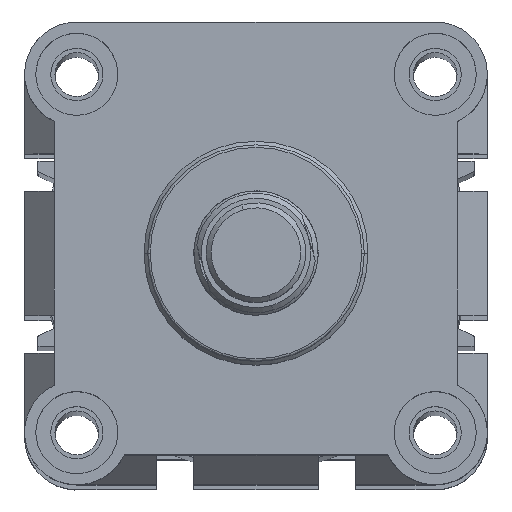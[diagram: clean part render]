
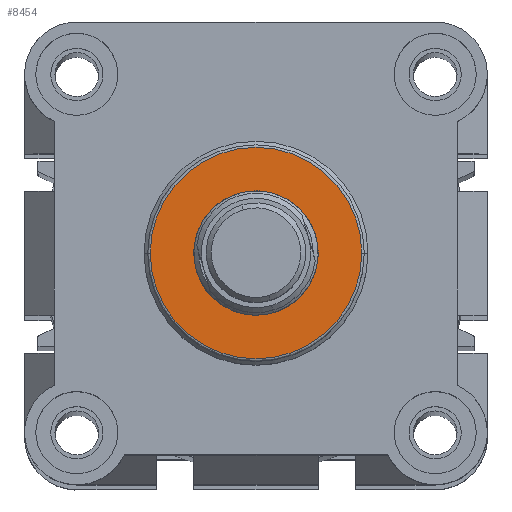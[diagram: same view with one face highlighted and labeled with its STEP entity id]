
A CAD part, top view. The second image highlights one B-rep face of the part: STEP entity #8454.
In plain terms, the highlighted planar face has unit normal (0, 0, 1) as drawn and (0, 0, -1) by its records, which use the part's own axes.
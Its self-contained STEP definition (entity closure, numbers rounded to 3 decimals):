
#20 = AXIS2_PLACEMENT_3D ( 'NONE', #18312, #12225, #15329 ) ;
#990 = CIRCLE ( 'NONE', #3863, 21.25 ) ;
#1325 = EDGE_CURVE ( 'NONE', #17641, #11056, #11751, .T. ) ;
#1332 = AXIS2_PLACEMENT_3D ( 'NONE', #19041, #8256, #14283 ) ;
#2462 = CARTESIAN_POINT ( 'NONE',  ( 34., 46.5, -34.7 ) ) ;
#3083 = EDGE_CURVE ( 'NONE', #11056, #17641, #990, .T. ) ;
#3336 = CARTESIAN_POINT ( 'NONE',  ( 59., 46.5, -34.7 ) ) ;
#3519 = CARTESIAN_POINT ( 'NONE',  ( 46.5, 46.5, -34.7 ) ) ;
#3863 = AXIS2_PLACEMENT_3D ( 'NONE', #5913, #18043, #19561 ) ;
#4160 = CARTESIAN_POINT ( 'NONE',  ( 46.5, 46.5, -34.7 ) ) ;
#4254 = ORIENTED_EDGE ( 'NONE', *, *, #3083, .T. ) ;
#4284 = EDGE_CURVE ( 'NONE', #9177, #5867, #7107, .T. ) ;
#5170 = EDGE_LOOP ( 'NONE', ( #13027, #4254 ) ) ;
#5727 = CARTESIAN_POINT ( 'NONE',  ( 67.75, 46.5, -34.7 ) ) ;
#5867 = VERTEX_POINT ( 'NONE', #3336 ) ;
#5913 = CARTESIAN_POINT ( 'NONE',  ( 46.5, 46.5, -34.7 ) ) ;
#7107 = CIRCLE ( 'NONE', #1332, 12.5 ) ;
#8256 = DIRECTION ( 'NONE',  ( 0., 0., -1. ) ) ;
#8454 = ADVANCED_FACE ( 'NONE', ( #18071, #9729 ), #16744, .T. ) ;
#8851 = ORIENTED_EDGE ( 'NONE', *, *, #15820, .F. ) ;
#9177 = VERTEX_POINT ( 'NONE', #2462 ) ;
#9517 = CARTESIAN_POINT ( 'NONE',  ( 25.25, 46.5, -34.7 ) ) ;
#9519 = DIRECTION ( 'NONE',  ( 0., 0., -1. ) ) ;
#9729 = FACE_OUTER_BOUND ( 'NONE', #5170, .T. ) ;
#11056 = VERTEX_POINT ( 'NONE', #5727 ) ;
#11751 = CIRCLE ( 'NONE', #19251, 21.25 ) ;
#11815 = DIRECTION ( 'NONE',  ( 0., 0., -1. ) ) ;
#12225 = DIRECTION ( 'NONE',  ( 0., 0., -1. ) ) ;
#12639 = DIRECTION ( 'NONE',  ( -1., 0., 0. ) ) ;
#13027 = ORIENTED_EDGE ( 'NONE', *, *, #1325, .T. ) ;
#13152 = CIRCLE ( 'NONE', #14577, 12.5 ) ;
#13275 = DIRECTION ( 'NONE',  ( -1., 0., 0. ) ) ;
#14283 = DIRECTION ( 'NONE',  ( -1., 0., 0. ) ) ;
#14577 = AXIS2_PLACEMENT_3D ( 'NONE', #3519, #9519, #12639 ) ;
#15329 = DIRECTION ( 'NONE',  ( -1., 0., 0. ) ) ;
#15820 = EDGE_CURVE ( 'NONE', #5867, #9177, #13152, .T. ) ;
#16744 = PLANE ( 'NONE',  #20 ) ;
#17641 = VERTEX_POINT ( 'NONE', #9517 ) ;
#17877 = EDGE_LOOP ( 'NONE', ( #19286, #8851 ) ) ;
#18043 = DIRECTION ( 'NONE',  ( 0., 0., -1. ) ) ;
#18071 = FACE_BOUND ( 'NONE', #17877, .T. ) ;
#18312 = CARTESIAN_POINT ( 'NONE',  ( 46.5, 46.5, -34.7 ) ) ;
#19041 = CARTESIAN_POINT ( 'NONE',  ( 46.5, 46.5, -34.7 ) ) ;
#19251 = AXIS2_PLACEMENT_3D ( 'NONE', #4160, #11815, #13275 ) ;
#19286 = ORIENTED_EDGE ( 'NONE', *, *, #4284, .F. ) ;
#19561 = DIRECTION ( 'NONE',  ( -1., 0., 0. ) ) ;
